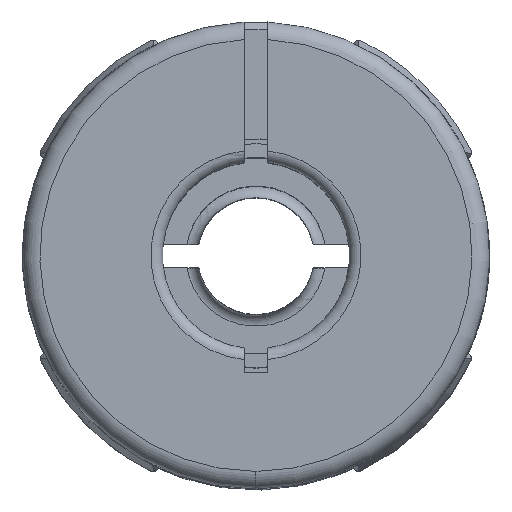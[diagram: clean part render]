
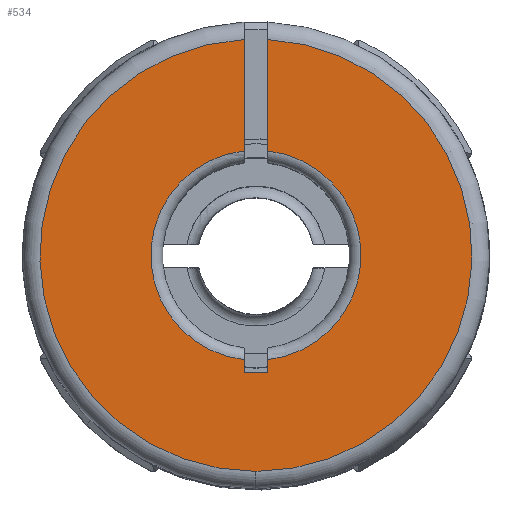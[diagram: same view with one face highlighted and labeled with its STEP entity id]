
A CAD part, top view. The second image highlights one B-rep face of the part: STEP entity #534.
In plain terms, the highlighted planar face has unit normal (0, 0, 1).
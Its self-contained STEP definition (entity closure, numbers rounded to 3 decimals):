
#390 = EDGE_CURVE ( 'NONE', #391, #392, #5329, .T. ) ;
#391 = VERTEX_POINT ( 'NONE', #6069 ) ;
#392 = VERTEX_POINT ( 'NONE', #6068 ) ;
#423 = EDGE_CURVE ( 'NONE', #424, #434, #6132, .T. ) ;
#424 = VERTEX_POINT ( 'NONE', #6128 ) ;
#433 = EDGE_CURVE ( 'NONE', #434, #460, #6156, .T. ) ;
#434 = VERTEX_POINT ( 'NONE', #6152 ) ;
#460 = VERTEX_POINT ( 'NONE', #6216 ) ;
#487 = EDGE_CURVE ( 'NONE', #495, #488, #6278, .T. ) ;
#488 = VERTEX_POINT ( 'NONE', #6274 ) ;
#494 = EDGE_CURVE ( 'NONE', #495, #424, #6267, .T. ) ;
#495 = VERTEX_POINT ( 'NONE', #6263 ) ;
#516 = EDGE_CURVE ( 'NONE', #538, #391, #6341, .T. ) ;
#517 = ORIENTED_EDGE ( 'NONE', *, *, #390, .T. ) ;
#518 = ORIENTED_EDGE ( 'NONE', *, *, #519, .F. ) ;
#519 = EDGE_CURVE ( 'NONE', #529, #392, #6336, .T. ) ;
#520 = ORIENTED_EDGE ( 'NONE', *, *, #528, .T. ) ;
#521 = ORIENTED_EDGE ( 'NONE', *, *, #487, .F. ) ;
#522 = ORIENTED_EDGE ( 'NONE', *, *, #494, .T. ) ;
#523 = ORIENTED_EDGE ( 'NONE', *, *, #423, .T. ) ;
#524 = ORIENTED_EDGE ( 'NONE', *, *, #433, .T. ) ;
#528 = EDGE_CURVE ( 'NONE', #529, #488, #6326, .T. ) ;
#529 = VERTEX_POINT ( 'NONE', #6321 ) ;
#534 = ADVANCED_FACE ( 'NONE', ( #6379 ), #6378, .F. ) ;
#535 = EDGE_LOOP ( 'NONE', ( #536, #539, #517, #518, #520, #521, #522, #523, #524 ) ) ;
#536 = ORIENTED_EDGE ( 'NONE', *, *, #537, .T. ) ;
#537 = EDGE_CURVE ( 'NONE', #460, #538, #6371, .T. ) ;
#538 = VERTEX_POINT ( 'NONE', #6363 ) ;
#539 = ORIENTED_EDGE ( 'NONE', *, *, #516, .T. ) ;
#5328 = AXIS2_PLACEMENT_3D ( 'NONE', #5546, #5545, #5989 ) ;
#5329 = CIRCLE ( 'NONE', #5328, 9.25 ) ;
#5545 = DIRECTION ( 'NONE',  ( 0., 0., 1. ) ) ;
#5546 = CARTESIAN_POINT ( 'NONE',  ( 1.121, 1.995, 24.552 ) ) ;
#5989 = DIRECTION ( 'NONE',  ( 0., -1., 0. ) ) ;
#6068 = CARTESIAN_POINT ( 'NONE',  ( 1.621, 11.232, 24.552 ) ) ;
#6069 = CARTESIAN_POINT ( 'NONE',  ( 1.121, -7.255, 24.552 ) ) ;
#6128 = CARTESIAN_POINT ( 'NONE',  ( 0.621, -3.005, 24.552 ) ) ;
#6129 = DIRECTION ( 'NONE',  ( 0., 1., 0. ) ) ;
#6130 = VECTOR ( 'NONE', #6129, 1000. ) ;
#6131 = CARTESIAN_POINT ( 'NONE',  ( 0.621, -3.005, 24.552 ) ) ;
#6132 = LINE ( 'NONE', #6131, #6130 ) ;
#6152 = CARTESIAN_POINT ( 'NONE',  ( 0.621, -2.477, 24.552 ) ) ;
#6153 = DIRECTION ( 'NONE',  ( 0., -1., 0. ) ) ;
#6154 = DIRECTION ( 'NONE',  ( 0., 0., -1. ) ) ;
#6155 = AXIS2_PLACEMENT_3D ( 'NONE', #6161, #6154, #6153 ) ;
#6156 = CIRCLE ( 'NONE', #6155, 4.5 ) ;
#6161 = CARTESIAN_POINT ( 'NONE',  ( 1.121, 1.995, 24.552 ) ) ;
#6216 = CARTESIAN_POINT ( 'NONE',  ( 0.621, 6.468, 24.552 ) ) ;
#6263 = CARTESIAN_POINT ( 'NONE',  ( 1.621, -3.005, 24.552 ) ) ;
#6264 = DIRECTION ( 'NONE',  ( -1., 0., 0. ) ) ;
#6265 = VECTOR ( 'NONE', #6264, 1000. ) ;
#6266 = CARTESIAN_POINT ( 'NONE',  ( 0.621, -3.005, 24.552 ) ) ;
#6267 = LINE ( 'NONE', #6266, #6265 ) ;
#6274 = CARTESIAN_POINT ( 'NONE',  ( 1.621, -2.477, 24.552 ) ) ;
#6275 = DIRECTION ( 'NONE',  ( 0., 1., 0. ) ) ;
#6276 = VECTOR ( 'NONE', #6275, 1000. ) ;
#6277 = CARTESIAN_POINT ( 'NONE',  ( 1.621, -3.005, 24.552 ) ) ;
#6278 = LINE ( 'NONE', #6277, #6276 ) ;
#6321 = CARTESIAN_POINT ( 'NONE',  ( 1.621, 6.468, 24.552 ) ) ;
#6322 = DIRECTION ( 'NONE',  ( 0., -1., 0. ) ) ;
#6323 = DIRECTION ( 'NONE',  ( 0., 0., -1. ) ) ;
#6324 = CARTESIAN_POINT ( 'NONE',  ( 1.121, 1.995, 24.552 ) ) ;
#6325 = AXIS2_PLACEMENT_3D ( 'NONE', #6324, #6323, #6322 ) ;
#6326 = CIRCLE ( 'NONE', #6325, 4.5 ) ;
#6333 = DIRECTION ( 'NONE',  ( 0., 1., 0. ) ) ;
#6334 = VECTOR ( 'NONE', #6333, 1000. ) ;
#6335 = CARTESIAN_POINT ( 'NONE',  ( 1.621, -3.005, 24.552 ) ) ;
#6336 = LINE ( 'NONE', #6335, #6334 ) ;
#6337 = DIRECTION ( 'NONE',  ( 0., -1., 0. ) ) ;
#6338 = DIRECTION ( 'NONE',  ( 0., 0., 1. ) ) ;
#6339 = CARTESIAN_POINT ( 'NONE',  ( 1.121, 1.995, 24.552 ) ) ;
#6340 = AXIS2_PLACEMENT_3D ( 'NONE', #6339, #6338, #6337 ) ;
#6341 = CIRCLE ( 'NONE', #6340, 9.25 ) ;
#6363 = CARTESIAN_POINT ( 'NONE',  ( 0.621, 11.232, 24.552 ) ) ;
#6364 = DIRECTION ( 'NONE',  ( 0., 1., 0. ) ) ;
#6365 = VECTOR ( 'NONE', #6364, 1000. ) ;
#6366 = CARTESIAN_POINT ( 'NONE',  ( 0.621, -3.005, 24.552 ) ) ;
#6367 = DIRECTION ( 'NONE',  ( 0., -1., 0. ) ) ;
#6368 = DIRECTION ( 'NONE',  ( 0., 0., -1. ) ) ;
#6369 = CARTESIAN_POINT ( 'NONE',  ( 1.121, 1.995, 24.552 ) ) ;
#6370 = AXIS2_PLACEMENT_3D ( 'NONE', #6369, #6368, #6367 ) ;
#6371 = LINE ( 'NONE', #6366, #6365 ) ;
#6378 = PLANE ( 'NONE',  #6370 ) ;
#6379 = FACE_OUTER_BOUND ( 'NONE', #535, .T. ) ;
